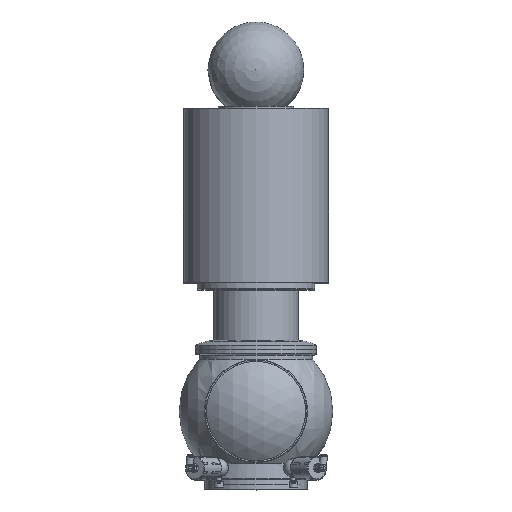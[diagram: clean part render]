
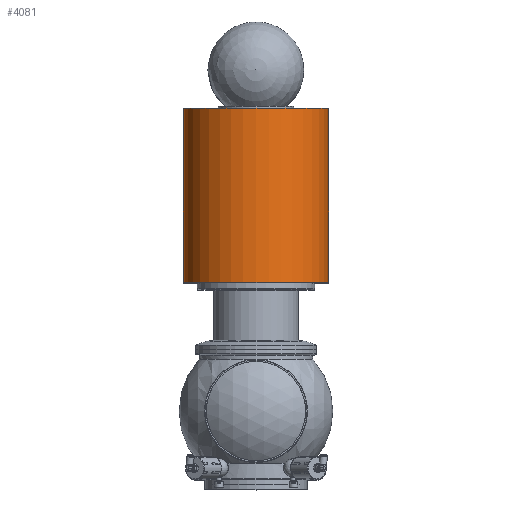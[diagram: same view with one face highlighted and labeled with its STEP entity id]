
A CAD part, top view. The second image highlights one B-rep face of the part: STEP entity #4081.
In plain terms, the highlighted cylindrical face has radius 109.5 mm (diameter 219 mm), a full revolution.
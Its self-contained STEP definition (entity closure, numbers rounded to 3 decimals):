
#336=LINE('',#6856,#545);
#545=VECTOR('',#5204,109.5);
#740=CYLINDRICAL_SURFACE('',#4537,109.5);
#942=FACE_OUTER_BOUND('',#1172,.T.);
#1172=EDGE_LOOP('',(#2939,#2940,#2941,#2942,#2943,#2944,#2945));
#1438=CIRCLE('',#4524,109.5);
#1439=CIRCLE('',#4525,109.5);
#1440=CIRCLE('',#4526,109.5);
#1445=CIRCLE('',#4535,109.5);
#1446=CIRCLE('',#4536,109.5);
#1744=VERTEX_POINT('',#6831);
#1745=VERTEX_POINT('',#6833);
#1746=VERTEX_POINT('',#6835);
#1751=VERTEX_POINT('',#6851);
#1752=VERTEX_POINT('',#6852);
#2211=EDGE_CURVE('',#1744,#1745,#1438,.T.);
#2212=EDGE_CURVE('',#1745,#1746,#1439,.T.);
#2213=EDGE_CURVE('',#1746,#1744,#1440,.T.);
#2219=EDGE_CURVE('',#1751,#1752,#1445,.T.);
#2220=EDGE_CURVE('',#1752,#1751,#1446,.T.);
#2221=EDGE_CURVE('',#1745,#1752,#336,.T.);
#2939=ORIENTED_EDGE('',*,*,#2213,.F.);
#2940=ORIENTED_EDGE('',*,*,#2212,.F.);
#2941=ORIENTED_EDGE('',*,*,#2221,.T.);
#2942=ORIENTED_EDGE('',*,*,#2220,.T.);
#2943=ORIENTED_EDGE('',*,*,#2219,.T.);
#2944=ORIENTED_EDGE('',*,*,#2221,.F.);
#2945=ORIENTED_EDGE('',*,*,#2211,.F.);
#4081=ADVANCED_FACE('',(#942),#740,.T.);
#4524=AXIS2_PLACEMENT_3D('',#6834,#5175,#5176);
#4525=AXIS2_PLACEMENT_3D('',#6836,#5177,#5178);
#4526=AXIS2_PLACEMENT_3D('',#6837,#5179,#5180);
#4535=AXIS2_PLACEMENT_3D('',#6853,#5198,#5199);
#4536=AXIS2_PLACEMENT_3D('',#6854,#5200,#5201);
#4537=AXIS2_PLACEMENT_3D('',#6855,#5202,#5203);
#5175=DIRECTION('center_axis',(0.,-1.,0.));
#5176=DIRECTION('ref_axis',(1.,0.,0.));
#5177=DIRECTION('center_axis',(0.,-1.,0.));
#5178=DIRECTION('ref_axis',(1.,0.,0.));
#5179=DIRECTION('center_axis',(0.,-1.,0.));
#5180=DIRECTION('ref_axis',(1.,0.,0.));
#5198=DIRECTION('center_axis',(0.,-1.,0.));
#5199=DIRECTION('ref_axis',(1.,0.,0.));
#5200=DIRECTION('center_axis',(0.,-1.,0.));
#5201=DIRECTION('ref_axis',(1.,0.,0.));
#5202=DIRECTION('center_axis',(0.,-1.,0.));
#5203=DIRECTION('ref_axis',(1.,0.,0.));
#5204=DIRECTION('',(0.,1.,0.));
#6831=CARTESIAN_POINT('',(0.,1.,109.5));
#6833=CARTESIAN_POINT('',(-109.5,1.,0.));
#6834=CARTESIAN_POINT('Origin',(0.,1.,0.));
#6835=CARTESIAN_POINT('',(109.5,1.,0.));
#6836=CARTESIAN_POINT('Origin',(0.,1.,0.));
#6837=CARTESIAN_POINT('Origin',(0.,1.,0.));
#6851=CARTESIAN_POINT('',(109.5,263.5,0.));
#6852=CARTESIAN_POINT('',(-109.5,263.5,0.));
#6853=CARTESIAN_POINT('Origin',(0.,263.5,0.));
#6854=CARTESIAN_POINT('Origin',(0.,263.5,0.));
#6855=CARTESIAN_POINT('Origin',(0.,132.25,0.));
#6856=CARTESIAN_POINT('',(-109.5,132.25,0.));
